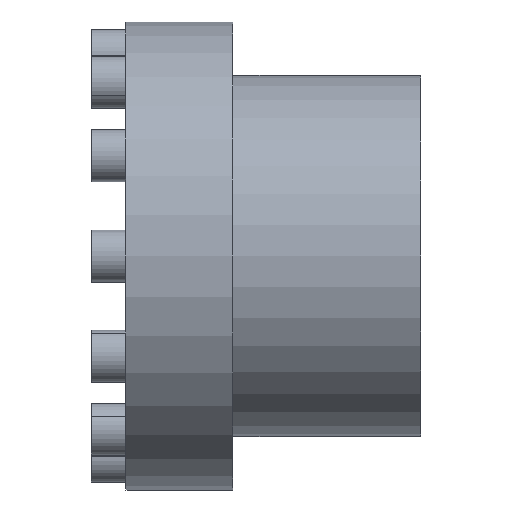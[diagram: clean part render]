
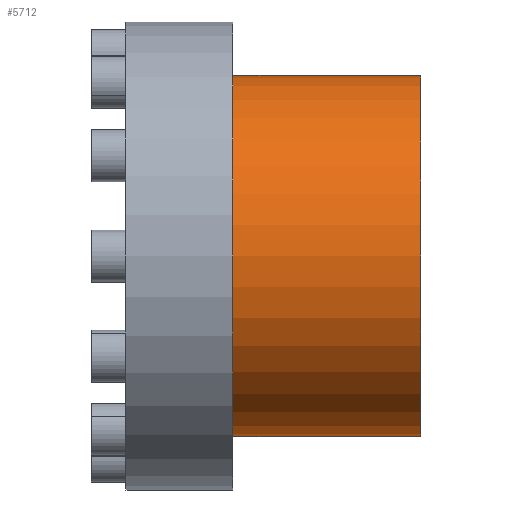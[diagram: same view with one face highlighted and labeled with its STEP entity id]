
A CAD part, front view. The second image highlights one B-rep face of the part: STEP entity #5712.
In plain terms, the highlighted cylindrical face has radius 62.5 mm (diameter 125 mm), a partial arc.
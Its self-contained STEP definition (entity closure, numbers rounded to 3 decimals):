
#1099 = DIRECTION ( 'NONE',  ( -1., 0., 0. ) ) ;
#1100 = VECTOR ( 'NONE', #1099, 1000. ) ;
#1101 = CARTESIAN_POINT ( 'NONE',  ( 0., 0., 62.5 ) ) ;
#1102 = LINE ( 'NONE', #1101, #1100 ) ;
#1286 = CARTESIAN_POINT ( 'NONE',  ( 37., 0., 62.5 ) ) ;
#1292 = CARTESIAN_POINT ( 'NONE',  ( 37., 0., -62.5 ) ) ;
#1293 = DIRECTION ( 'NONE',  ( -1., 0., 0. ) ) ;
#1294 = VECTOR ( 'NONE', #1293, 1000. ) ;
#1295 = CARTESIAN_POINT ( 'NONE',  ( 0., 0., -62.5 ) ) ;
#1296 = LINE ( 'NONE', #1295, #1294 ) ;
#1297 = CARTESIAN_POINT ( 'NONE',  ( 102., 0., -62.5 ) ) ;
#1298 = CARTESIAN_POINT ( 'NONE',  ( 102., 0., 62.5 ) ) ;
#2179 = DIRECTION ( 'NONE',  ( 0., 0., 1. ) ) ;
#2180 = DIRECTION ( 'NONE',  ( -1., 0., 0. ) ) ;
#2181 = AXIS2_PLACEMENT_3D ( 'NONE', #2187, #2180, #2179 ) ;
#2182 = CIRCLE ( 'NONE', #2181, 62.5 ) ;
#2187 = CARTESIAN_POINT ( 'NONE',  ( 102., 0., 0. ) ) ;
#2214 = DIRECTION ( 'NONE',  ( 0., 0., 1. ) ) ;
#2215 = DIRECTION ( 'NONE',  ( -1., 0., 0. ) ) ;
#2216 = AXIS2_PLACEMENT_3D ( 'NONE', #2221, #2215, #2214 ) ;
#2217 = CIRCLE ( 'NONE', #2216, 62.5 ) ;
#2218 = DIRECTION ( 'NONE',  ( 0., 0., 1. ) ) ;
#2219 = DIRECTION ( 'NONE',  ( -1., 0., 0. ) ) ;
#2220 = AXIS2_PLACEMENT_3D ( 'NONE', #2324, #2219, #2218 ) ;
#2221 = CARTESIAN_POINT ( 'NONE',  ( 37., 0., 0. ) ) ;
#2222 = CYLINDRICAL_SURFACE ( 'NONE', #2220, 62.5 ) ;
#2223 = FACE_OUTER_BOUND ( 'NONE', #5516, .T. ) ;
#2324 = CARTESIAN_POINT ( 'NONE',  ( 0., 0., 0. ) ) ;
#4936 = EDGE_CURVE ( 'NONE', #5070, #5077, #1102, .T. ) ;
#5070 = VERTEX_POINT ( 'NONE', #1298 ) ;
#5071 = VERTEX_POINT ( 'NONE', #1297 ) ;
#5073 = EDGE_CURVE ( 'NONE', #5071, #5074, #1296, .T. ) ;
#5074 = VERTEX_POINT ( 'NONE', #1292 ) ;
#5077 = VERTEX_POINT ( 'NONE', #1286 ) ;
#5516 = EDGE_LOOP ( 'NONE', ( #5517, #5537, #5539, #5540 ) ) ;
#5517 = ORIENTED_EDGE ( 'NONE', *, *, #5073, .F. ) ;
#5537 = ORIENTED_EDGE ( 'NONE', *, *, #5538, .T. ) ;
#5538 = EDGE_CURVE ( 'NONE', #5071, #5070, #2182, .T. ) ;
#5539 = ORIENTED_EDGE ( 'NONE', *, *, #4936, .T. ) ;
#5540 = ORIENTED_EDGE ( 'NONE', *, *, #5713, .F. ) ;
#5712 = ADVANCED_FACE ( 'NONE', ( #2223 ), #2222, .T. ) ;
#5713 = EDGE_CURVE ( 'NONE', #5074, #5077, #2217, .T. ) ;
